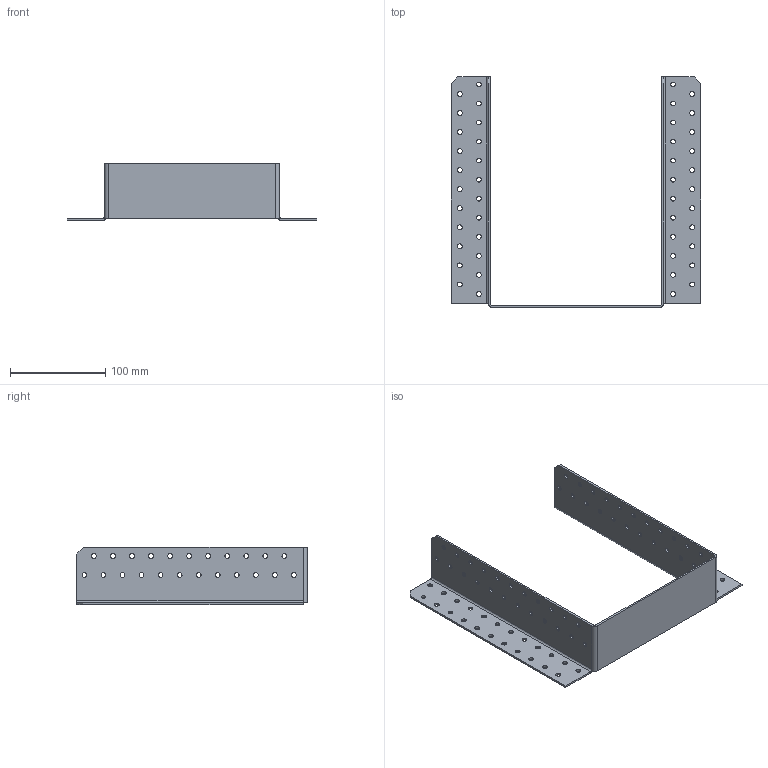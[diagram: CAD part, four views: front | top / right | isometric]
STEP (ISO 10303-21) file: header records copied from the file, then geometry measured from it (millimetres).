
FILE_DESCRIPTION (( 'STEP AP203' ), '1' );
FILE_NAME ('405232.STEP', '2021-04-17T17:48:56', ( '' ), ( '' ), 'SwSTEP 2.0', 'SolidWorks 2013', '' );
FILE_SCHEMA (( 'CONFIG_CONTROL_DESIGN' ));
Length unit declared in the file: millimetre
Products named in the file (1): 405232
Bounding box: 262 x 242 x 60 mm (x, y, z)
Volume: 110722.6 mm3; surface area: 116776.9 mm2
Topology: 1 solids, 1 shells, 228 faces, 648 edges, 422 vertices
Faces by surface type: cylinder 192, plane 36
Entity records: 8043 total; most frequent: DIRECTION 1492, CARTESIAN_POINT 1299, ORIENTED_EDGE 1296, EDGE_CURVE 648, AXIS2_PLACEMENT_3D 615, VERTEX_POINT 422, EDGE_LOOP 412, CIRCLE 386
